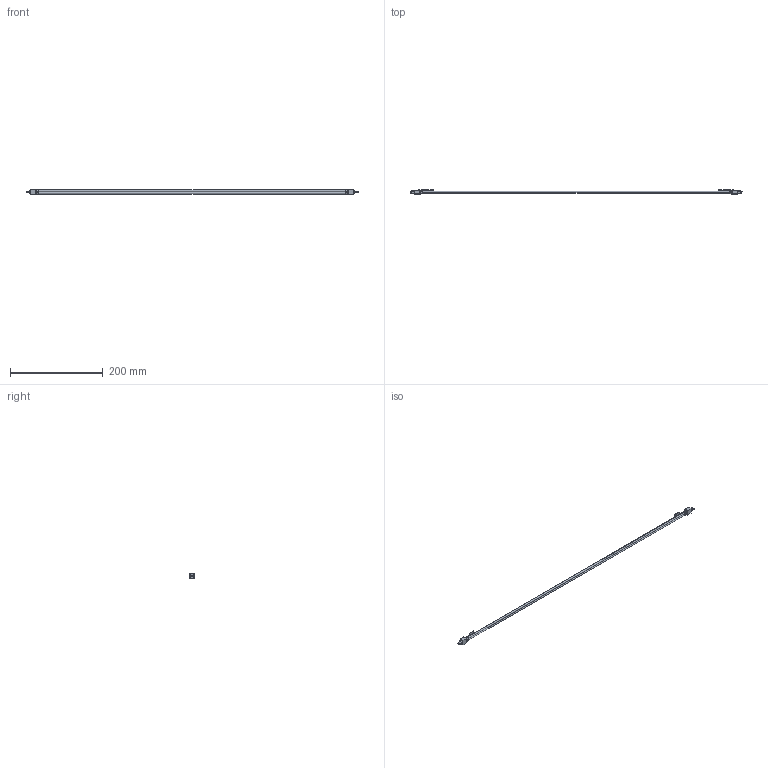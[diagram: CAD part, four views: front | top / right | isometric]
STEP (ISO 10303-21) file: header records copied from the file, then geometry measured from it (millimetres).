
FILE_DESCRIPTION (( 'STEP AP203' ), '1' );
FILE_NAME ('¹s¥ó20^9312-3P02B7WAA01.STEP', '2025-11-13T07:08:09', ( '' ), ( '' ), 'SwSTEP 2.0', 'SolidWorks 2011', '' );
FILE_SCHEMA (( 'CONFIG_CONTROL_DESIGN' ));
Length unit declared in the file: millimetre
Products named in the file (1): 零件20^9312-3P02B7WAA01
Bounding box: 715 x 8.71 x 12.87 mm (x, y, z)
Volume: 22238.7 mm3; surface area: 22196.4 mm2
Topology: 1 solids, 11 shells, 1066 faces, 2938 edges, 1910 vertices
Faces by surface type: plane 598, cylinder 328, bspline 130, sphere 8, cone 2
Entity records: 46236 total; most frequent: CARTESIAN_POINT 20478, ORIENTED_EDGE 5856, DIRECTION 4610, EDGE_CURVE 2928, VERTEX_POINT 1906, VECTOR 1744, LINE 1744, AXIS2_PLACEMENT_3D 1433
